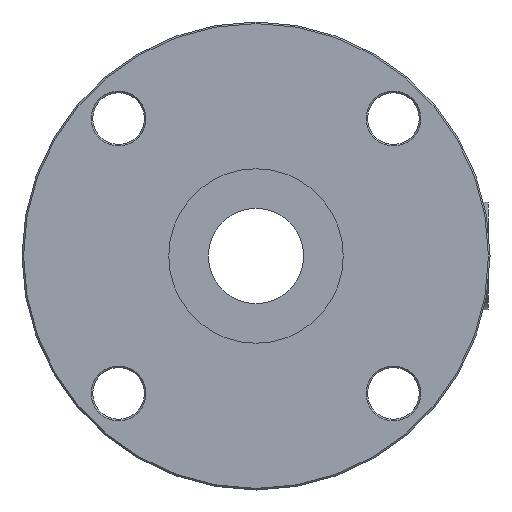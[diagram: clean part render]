
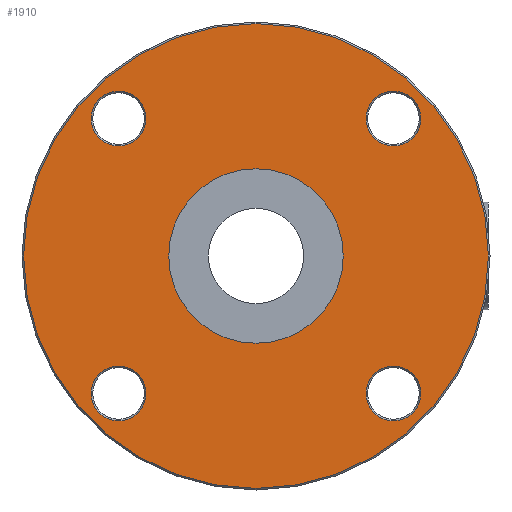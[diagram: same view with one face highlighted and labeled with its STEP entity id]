
A CAD part, front view. The second image highlights one B-rep face of the part: STEP entity #1910.
In plain terms, the highlighted planar face has unit normal (0, -1, 0).
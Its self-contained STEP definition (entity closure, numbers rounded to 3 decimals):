
#48 = CARTESIAN_POINT ( 'NONE',  ( 17.324, -42.5, -17.324 ) ) ;
#109 = CIRCLE ( 'NONE', #5054, 11. ) ;
#130 = VERTEX_POINT ( 'NONE', #5233 ) ;
#163 = VERTEX_POINT ( 'NONE', #6500 ) ;
#197 = ORIENTED_EDGE ( 'NONE', *, *, #6280, .T. ) ;
#202 = CARTESIAN_POINT ( 'NONE',  ( 0., -42.5, 0. ) ) ;
#260 = VERTEX_POINT ( 'NONE', #1442 ) ;
#300 = CIRCLE ( 'NONE', #1108, 29.3 ) ;
#363 = EDGE_CURVE ( 'NONE', #6759, #515, #1739, .T. ) ;
#429 = DIRECTION ( 'NONE',  ( 0., -1., 0. ) ) ;
#433 = AXIS2_PLACEMENT_3D ( 'NONE', #6571, #4893, #2101 ) ;
#448 = VERTEX_POINT ( 'NONE', #5099 ) ;
#515 = VERTEX_POINT ( 'NONE', #5871 ) ;
#535 = CARTESIAN_POINT ( 'NONE',  ( 0., -42.5, 0. ) ) ;
#888 = CIRCLE ( 'NONE', #6749, 3.45 ) ;
#906 = CIRCLE ( 'NONE', #433, 3.45 ) ;
#950 = FACE_BOUND ( 'NONE', #6311, .T. ) ;
#977 = CARTESIAN_POINT ( 'NONE',  ( 17.324, -42.5, 17.324 ) ) ;
#982 = FACE_BOUND ( 'NONE', #5302, .T. ) ;
#1056 = CARTESIAN_POINT ( 'NONE',  ( -17.324, -42.5, 17.324 ) ) ;
#1108 = AXIS2_PLACEMENT_3D ( 'NONE', #535, #1712, #1788 ) ;
#1201 = CARTESIAN_POINT ( 'NONE',  ( 17.324, -42.5, 17.324 ) ) ;
#1316 = DIRECTION ( 'NONE',  ( 0., 1., 0. ) ) ;
#1336 = ORIENTED_EDGE ( 'NONE', *, *, #363, .T. ) ;
#1366 = AXIS2_PLACEMENT_3D ( 'NONE', #7032, #5896, #6588 ) ;
#1442 = CARTESIAN_POINT ( 'NONE',  ( -17.324, -42.5, 13.874 ) ) ;
#1483 = ORIENTED_EDGE ( 'NONE', *, *, #1779, .T. ) ;
#1603 = CARTESIAN_POINT ( 'NONE',  ( 17.324, -42.5, -13.874 ) ) ;
#1608 = FACE_OUTER_BOUND ( 'NONE', #4676, .T. ) ;
#1649 = AXIS2_PLACEMENT_3D ( 'NONE', #6229, #2305, #3443 ) ;
#1712 = DIRECTION ( 'NONE',  ( 0., -1., 0. ) ) ;
#1739 = CIRCLE ( 'NONE', #4439, 3.45 ) ;
#1779 = EDGE_CURVE ( 'NONE', #5551, #130, #109, .T. ) ;
#1788 = DIRECTION ( 'NONE',  ( 0., 0., -1. ) ) ;
#1867 = DIRECTION ( 'NONE',  ( 0., 0., -1. ) ) ;
#1910 = ADVANCED_FACE ( 'NONE', ( #4814, #982, #3748, #5574, #1608, #950 ), #7255, .T. ) ;
#2075 = EDGE_CURVE ( 'NONE', #130, #5551, #5874, .T. ) ;
#2101 = DIRECTION ( 'NONE',  ( 0., 0., -1. ) ) ;
#2166 = EDGE_CURVE ( 'NONE', #6945, #2556, #3884, .T. ) ;
#2202 = AXIS2_PLACEMENT_3D ( 'NONE', #5954, #4902, #4829 ) ;
#2209 = AXIS2_PLACEMENT_3D ( 'NONE', #4657, #2966, #1867 ) ;
#2305 = DIRECTION ( 'NONE',  ( 0., 1., 0. ) ) ;
#2447 = CIRCLE ( 'NONE', #7131, 3.45 ) ;
#2463 = DIRECTION ( 'NONE',  ( 0., 0., 1. ) ) ;
#2556 = VERTEX_POINT ( 'NONE', #6676 ) ;
#2966 = DIRECTION ( 'NONE',  ( 0., 1., 0. ) ) ;
#2987 = ORIENTED_EDGE ( 'NONE', *, *, #6352, .T. ) ;
#3011 = EDGE_CURVE ( 'NONE', #448, #163, #300, .T. ) ;
#3019 = EDGE_LOOP ( 'NONE', ( #6230, #1336 ) ) ;
#3171 = ORIENTED_EDGE ( 'NONE', *, *, #4488, .T. ) ;
#3194 = CARTESIAN_POINT ( 'NONE',  ( 17.324, -42.5, 20.774 ) ) ;
#3302 = DIRECTION ( 'NONE',  ( 0., 1., 0. ) ) ;
#3321 = EDGE_CURVE ( 'NONE', #6120, #6549, #888, .T. ) ;
#3428 = ORIENTED_EDGE ( 'NONE', *, *, #3011, .T. ) ;
#3443 = DIRECTION ( 'NONE',  ( 0., 0., 1. ) ) ;
#3564 = DIRECTION ( 'NONE',  ( 0., 0., -1. ) ) ;
#3614 = EDGE_CURVE ( 'NONE', #163, #448, #4533, .T. ) ;
#3665 = DIRECTION ( 'NONE',  ( 0., 1., 0. ) ) ;
#3748 = FACE_BOUND ( 'NONE', #4421, .T. ) ;
#3884 = CIRCLE ( 'NONE', #5762, 3.45 ) ;
#3891 = DIRECTION ( 'NONE',  ( 0., 0., -1. ) ) ;
#4027 = CARTESIAN_POINT ( 'NONE',  ( -17.324, -42.5, -17.324 ) ) ;
#4093 = EDGE_CURVE ( 'NONE', #260, #5892, #4541, .T. ) ;
#4249 = ORIENTED_EDGE ( 'NONE', *, *, #3321, .T. ) ;
#4409 = CARTESIAN_POINT ( 'NONE',  ( -17.324, -42.5, 20.774 ) ) ;
#4421 = EDGE_LOOP ( 'NONE', ( #2987, #7127 ) ) ;
#4439 = AXIS2_PLACEMENT_3D ( 'NONE', #48, #5140, #6233 ) ;
#4488 = EDGE_CURVE ( 'NONE', #6549, #6120, #5834, .T. ) ;
#4533 = CIRCLE ( 'NONE', #1366, 29.3 ) ;
#4541 = CIRCLE ( 'NONE', #2202, 3.45 ) ;
#4657 = CARTESIAN_POINT ( 'NONE',  ( -17.324, -42.5, -17.324 ) ) ;
#4676 = EDGE_LOOP ( 'NONE', ( #3428, #7278 ) ) ;
#4686 = EDGE_CURVE ( 'NONE', #515, #6759, #906, .T. ) ;
#4814 = FACE_BOUND ( 'NONE', #5710, .T. ) ;
#4829 = DIRECTION ( 'NONE',  ( 0., 0., -1. ) ) ;
#4846 = ORIENTED_EDGE ( 'NONE', *, *, #2075, .T. ) ;
#4893 = DIRECTION ( 'NONE',  ( 0., 1., 0. ) ) ;
#4902 = DIRECTION ( 'NONE',  ( 0., 1., 0. ) ) ;
#4903 = CARTESIAN_POINT ( 'NONE',  ( -17.324, -42.5, -13.874 ) ) ;
#5024 = DIRECTION ( 'NONE',  ( 0., 0., -1. ) ) ;
#5054 = AXIS2_PLACEMENT_3D ( 'NONE', #202, #7077, #2463 ) ;
#5099 = CARTESIAN_POINT ( 'NONE',  ( 0., -42.5, 29.3 ) ) ;
#5140 = DIRECTION ( 'NONE',  ( 0., 1., 0. ) ) ;
#5233 = CARTESIAN_POINT ( 'NONE',  ( 0., -42.5, -11. ) ) ;
#5234 = CARTESIAN_POINT ( 'NONE',  ( 0., -42.5, 11. ) ) ;
#5302 = EDGE_LOOP ( 'NONE', ( #7264, #197 ) ) ;
#5408 = CARTESIAN_POINT ( 'NONE',  ( 17.324, -42.5, 13.874 ) ) ;
#5551 = VERTEX_POINT ( 'NONE', #5234 ) ;
#5574 = FACE_BOUND ( 'NONE', #3019, .T. ) ;
#5710 = EDGE_LOOP ( 'NONE', ( #4249, #3171 ) ) ;
#5762 = AXIS2_PLACEMENT_3D ( 'NONE', #4027, #6301, #6261 ) ;
#5834 = CIRCLE ( 'NONE', #7239, 3.45 ) ;
#5871 = CARTESIAN_POINT ( 'NONE',  ( 17.324, -42.5, -20.774 ) ) ;
#5874 = CIRCLE ( 'NONE', #1649, 11. ) ;
#5892 = VERTEX_POINT ( 'NONE', #4409 ) ;
#5896 = DIRECTION ( 'NONE',  ( 0., -1., 0. ) ) ;
#5954 = CARTESIAN_POINT ( 'NONE',  ( -17.324, -42.5, 17.324 ) ) ;
#5992 = AXIS2_PLACEMENT_3D ( 'NONE', #7188, #429, #5024 ) ;
#6120 = VERTEX_POINT ( 'NONE', #5408 ) ;
#6229 = CARTESIAN_POINT ( 'NONE',  ( 0., -42.5, 0. ) ) ;
#6230 = ORIENTED_EDGE ( 'NONE', *, *, #4686, .T. ) ;
#6233 = DIRECTION ( 'NONE',  ( 0., 0., -1. ) ) ;
#6261 = DIRECTION ( 'NONE',  ( 0., 0., -1. ) ) ;
#6280 = EDGE_CURVE ( 'NONE', #5892, #260, #2447, .T. ) ;
#6301 = DIRECTION ( 'NONE',  ( 0., 1., 0. ) ) ;
#6311 = EDGE_LOOP ( 'NONE', ( #4846, #1483 ) ) ;
#6352 = EDGE_CURVE ( 'NONE', #2556, #6945, #6542, .T. ) ;
#6500 = CARTESIAN_POINT ( 'NONE',  ( 0., -42.5, -29.3 ) ) ;
#6542 = CIRCLE ( 'NONE', #2209, 3.45 ) ;
#6549 = VERTEX_POINT ( 'NONE', #3194 ) ;
#6571 = CARTESIAN_POINT ( 'NONE',  ( 17.324, -42.5, -17.324 ) ) ;
#6588 = DIRECTION ( 'NONE',  ( 0., 0., -1. ) ) ;
#6676 = CARTESIAN_POINT ( 'NONE',  ( -17.324, -42.5, -20.774 ) ) ;
#6749 = AXIS2_PLACEMENT_3D ( 'NONE', #977, #3665, #7150 ) ;
#6759 = VERTEX_POINT ( 'NONE', #1603 ) ;
#6945 = VERTEX_POINT ( 'NONE', #4903 ) ;
#7032 = CARTESIAN_POINT ( 'NONE',  ( 0., -42.5, 0. ) ) ;
#7077 = DIRECTION ( 'NONE',  ( 0., 1., 0. ) ) ;
#7127 = ORIENTED_EDGE ( 'NONE', *, *, #2166, .T. ) ;
#7131 = AXIS2_PLACEMENT_3D ( 'NONE', #1056, #3302, #3891 ) ;
#7150 = DIRECTION ( 'NONE',  ( 0., 0., -1. ) ) ;
#7188 = CARTESIAN_POINT ( 'NONE',  ( 0., -42.5, 0. ) ) ;
#7239 = AXIS2_PLACEMENT_3D ( 'NONE', #1201, #1316, #3564 ) ;
#7255 = PLANE ( 'NONE',  #5992 ) ;
#7264 = ORIENTED_EDGE ( 'NONE', *, *, #4093, .T. ) ;
#7278 = ORIENTED_EDGE ( 'NONE', *, *, #3614, .T. ) ;
